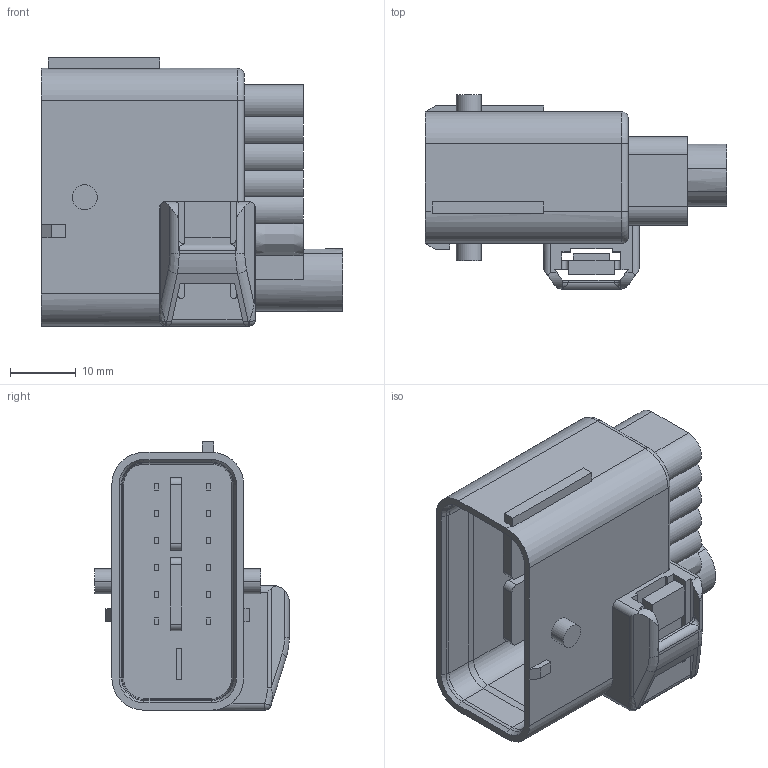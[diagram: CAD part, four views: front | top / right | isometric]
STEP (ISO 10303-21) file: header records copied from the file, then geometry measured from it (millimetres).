
FILE_DESCRIPTION(('CATIA V5 STEP Exchange'),'2;1');
FILE_NAME('N:\C-DAM_MyDesk\ENV\900093\6181-6464.stp','2013-06-03T05:11:58+00:00',('none'),('none'),'CATIA Version 5 Release 20 SP 4 (IN-10)','CATIA V5 STEP AP203','none');
FILE_SCHEMA(('CONFIG_CONTROL_DESIGN'));
Length unit declared in the file: millimetre
Products named in the file (1): 6181-6464
Bounding box: 45.9 x 29.65 x 40.9 mm (x, y, z)
Volume: 18466.7 mm3; surface area: 10315.4 mm2
Topology: 1 solids, 1 shells, 307 faces, 785 edges, 505 vertices
Faces by surface type: plane 167, cylinder 96, bspline 28, cone 6, torus 6, sphere 2, revolution 2
Entity records: 10829 total; most frequent: CARTESIAN_POINT 3960, ORIENTED_EDGE 1562, DIRECTION 1086, EDGE_CURVE 781, VERTEX_POINT 505, VECTOR 472, LINE 472, AXIS2_PLACEMENT_3D 397
